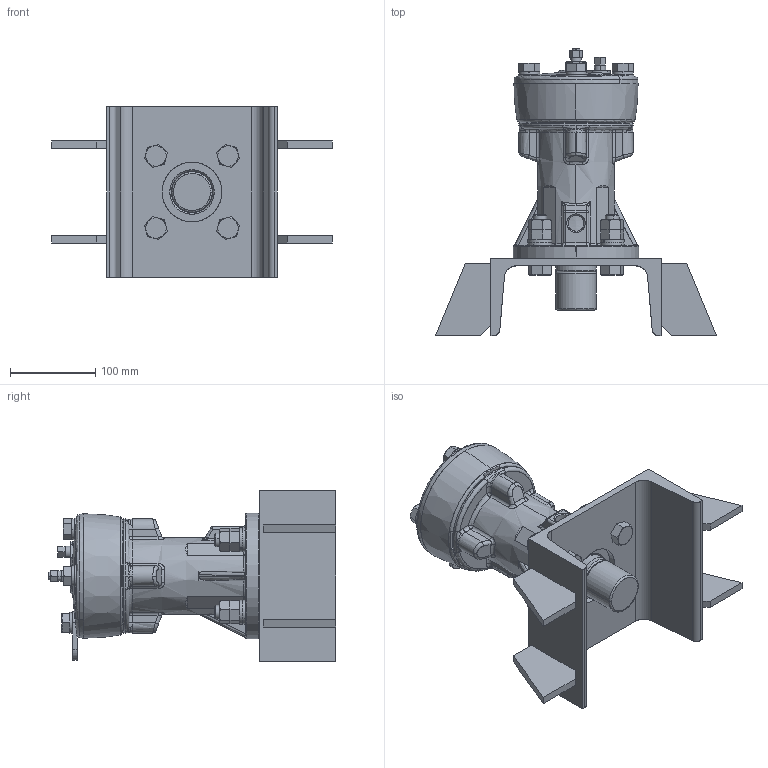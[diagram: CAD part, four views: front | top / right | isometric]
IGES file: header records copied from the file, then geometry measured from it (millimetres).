
Start section: SolidWorks IGES file using analytic representation for surfaces
Global section: file name: V:\WORK\08133\HP 寸法図\knocker\RKD80PA\test_A46000L-000 RKD80PA_defeature.IGS,15; native system: HSolidWorks 2018; preprocessor: SolidWorks 2018; author: n-udagawa; date: 230113.141412; units: millimetre
Bounding box: 330 x 337.6 x 200 mm (x, y, z)
Surface area: 329807.1 mm2 (no closed solid volume)
Topology: 0 solids, 0 shells, 762 faces, 12196 edges, 14005 vertices
Faces by surface type: bspline 474, revolution 288
